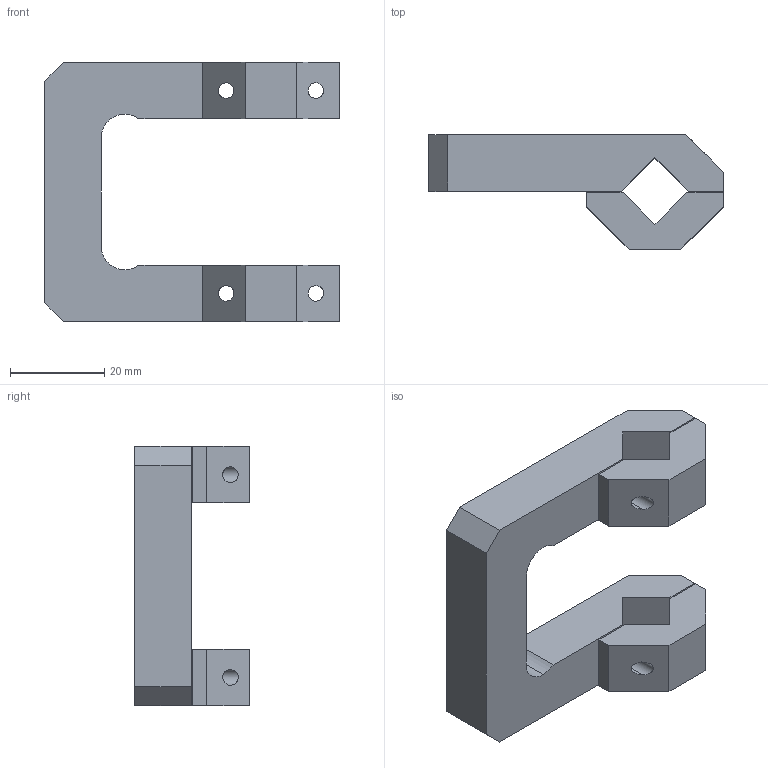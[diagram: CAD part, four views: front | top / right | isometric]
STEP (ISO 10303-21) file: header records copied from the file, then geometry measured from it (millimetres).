
FILE_DESCRIPTION (( 'STEP AP203' ), '1' );
FILE_NAME ('BC-25-MC.STEP', '2017-02-15T11:48:59', ( '' ), ( '' ), 'SwSTEP 2.0', 'SolidWorks 2012', '' );
FILE_SCHEMA (( 'CONFIG_CONTROL_DESIGN' ));
Length unit declared in the file: millimetre
Products named in the file (1): BC-25-MC
Bounding box: 62.5 x 24.29 x 55 mm (x, y, z)
Volume: 24006.3 mm3; surface area: 10976.3 mm2
Topology: 3 solids, 3 shells, 74 faces, 198 edges, 132 vertices
Faces by surface type: plane 46, cylinder 28
Entity records: 2413 total; most frequent: CARTESIAN_POINT 447, ORIENTED_EDGE 396, DIRECTION 380, EDGE_CURVE 198, VECTOR 138, LINE 138, VERTEX_POINT 132, AXIS2_PLACEMENT_3D 121
